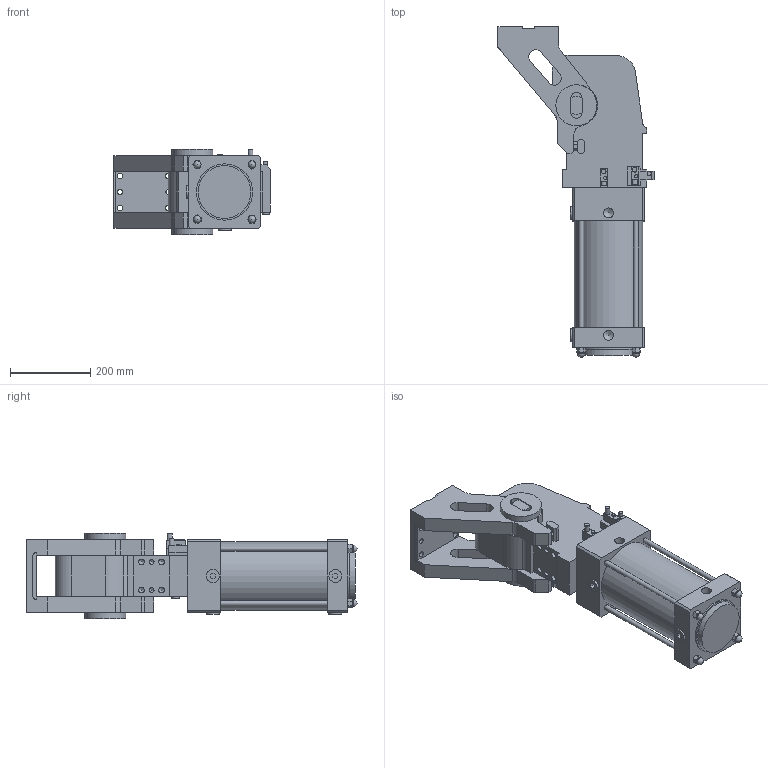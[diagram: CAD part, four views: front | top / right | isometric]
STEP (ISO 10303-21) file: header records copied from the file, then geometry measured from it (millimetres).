
FILE_DESCRIPTION(/* description */ (''),/* implementation_level */ '2;1');
FILE_NAME(/* name */ 'S:\Tom\INVENTOR FILES\AUTOMOTIVE\VEP\DUMP UNITS\C05.P015 RFM.2-RF.2\C05.P015 RFM.2-RF.2\RFM160\SATs\XPUZ160.2-107-2-ESL-P-G-X.stp',/* time_stamp */ '2018-07-29T18:02:11+01:00',/* author */ ('carl'),/* organization */ (''),/* preprocessor_version */ 'ST-DEVELOPER v16.13',/* originating_system */ 'Autodesk Inventor 2018',/* authorisation */ '');
FILE_SCHEMA (('AUTOMOTIVE_DESIGN { 1 0 10303 214 3 1 1 }'));
Length unit declared in the file: millimetre
Products named in the file (11): XPUZ160.2-107-2-ESL-P-G-X_TOP; XPUZ160; XPUZ160_1; XPUZ160_2; XPUZ160_3; XPUZ160_4; XPUZ160_5; XPUZ160_6; XPUZ160_7; XPUZ160_8; XPUZ160_9
Assembly tree (10 placements, depth 2):
  XPUZ160.2-107-2-ESL-P-G-X_TOP
    XPUZ160
    XPUZ160_1
    XPUZ160_2
    XPUZ160_3
    XPUZ160_4
    XPUZ160_5
    XPUZ160_6
    XPUZ160_7
    XPUZ160_8
    XPUZ160_9
Bounding box: 388 x 821 x 212 mm (x, y, z)
Volume: 20509695.9 mm3; surface area: 979651.9 mm2
Topology: 10 solids, 10 shells, 394 faces, 972 edges, 639 vertices
Faces by surface type: plane 268, cylinder 104, cone 18, sphere 4
Full cylindrical faces by diameter (mm): 5.5 x2, 8.5 x2, 10 x3, 10.2 x1, 11.8 x2, 12 x12, 13 x1, 14 x12, 18 x5, 24.5 x6, 26 x4, 32 x4, 45 x1, 50.5 x1, 60 x2, 102 x2, 131 x1, 140 x1, 170 x1
Entity records: 11351 total; most frequent: DIRECTION 1902, CARTESIAN_POINT 1883, ORIENTED_EDGE 1716, EDGE_CURVE 858, LINE 644, VECTOR 644, AXIS2_PLACEMENT_3D 629, VERTEX_POINT 610
